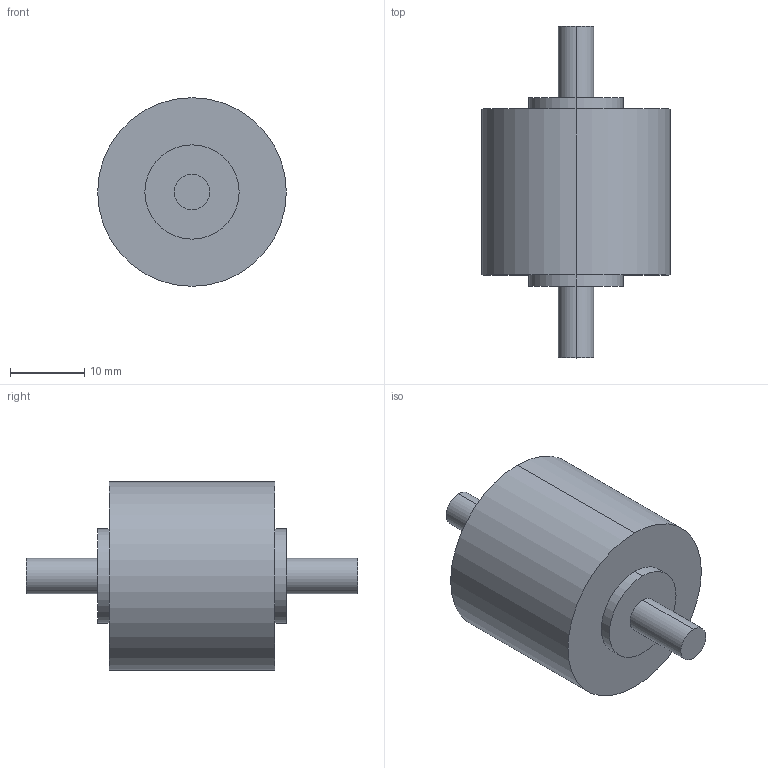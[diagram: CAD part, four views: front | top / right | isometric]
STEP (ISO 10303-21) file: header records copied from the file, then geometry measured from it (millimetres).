
FILE_DESCRIPTION (( 'STEP AP214' ), '1' );
FILE_NAME ('SS1432-50KG-M-M.STEP', '2024-09-04T13:37:44', ( '' ), ( '' ), 'SwSTEP 2.0', 'SolidWorks 2008', '' );
FILE_SCHEMA (( 'AUTOMOTIVE_DESIGN' ));
Length unit declared in the file: inch
Products named in the file (1): SS1432-50KG-M-M
Bounding box: 25.4 x 44.7 x 25.4 mm (x, y, z)
Volume: 12055.9 mm3; surface area: 3207.5 mm2
Topology: 1 solids, 1 shells, 16 faces, 30 edges, 20 vertices
Faces by surface type: cylinder 10, plane 6
Entity records: 441 total; most frequent: DIRECTION 84, CARTESIAN_POINT 67, ORIENTED_EDGE 60, AXIS2_PLACEMENT_3D 37, EDGE_CURVE 30, EDGE_LOOP 20, VERTEX_POINT 20, CIRCLE 20
